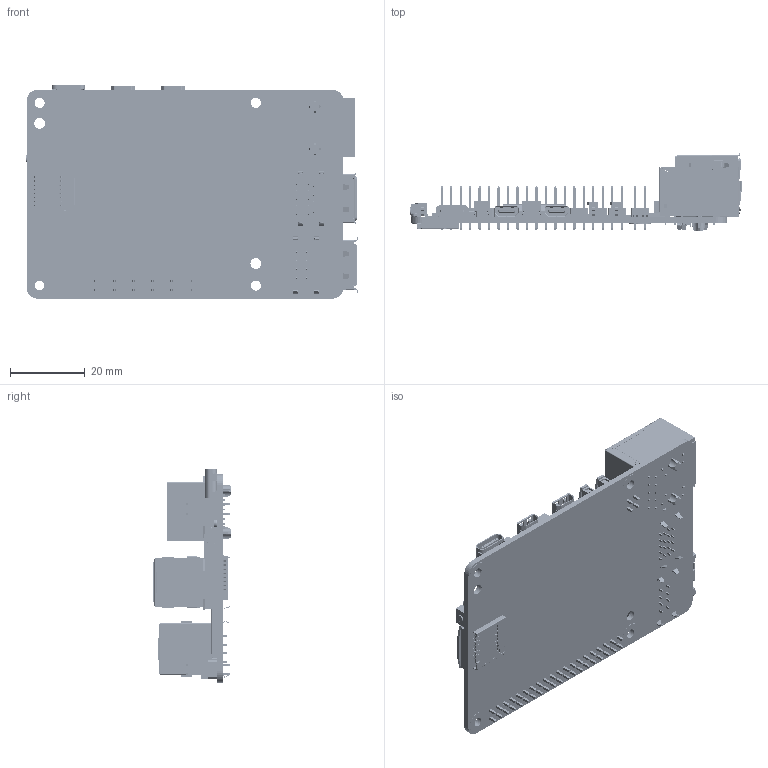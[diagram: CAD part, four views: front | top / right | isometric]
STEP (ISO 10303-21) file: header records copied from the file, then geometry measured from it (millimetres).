
FILE_DESCRIPTION (( 'STEP AP214' ), '1' );
FILE_NAME ('RASPBERRY_PI_5.STEP', '2025-04-03T16:23:53', ( '' ), ( '' ), 'SwSTEP 2.0', 'SolidWorks 2023', '' );
FILE_SCHEMA (( 'AUTOMOTIVE_DESIGN' ));
Length unit declared in the file: millimetre
Products named in the file (27): GIGABIT_ETHERNET_TRANSCEIVER; CARD_SLOT_METAL_PIN; CAMERA_DISPLAY_2; 2xUSB_3.0_PORT; PART3_V1; RP1_CO_CONTROLLER; CONNECT_V1; 2xUSB_2.0_PORT; SLOT_CARD_ASM; STOCK_1; STOCK_2; FEMALE_MICRO_HDMI_CONNECTOR; RASPBERRY_PI_5; PLATE_RASPBERRY_PI_5; 3.0_PIN_HEADER_10; SD_CARD_V1; GIGABIT_ETHERNET_PORT; METAL_PLATE.; 2.0_PIN_HEADER; MxL; CAMERA_DISPLAY_1; BUTTON_MINI; 9FD77_D9WHV; BUTTON_2; BROADCOM_1; STOCK_3; FEMALE_USB_CONNECTOR
Assembly tree (28 placements, depth 3):
  RASPBERRY_PI_5
    PLATE_RASPBERRY_PI_5
    METAL_PLATE.
    GIGABIT_ETHERNET_PORT
    2xUSB_3.0_PORT
    2xUSB_2.0_PORT
    FEMALE_MICRO_HDMI_CONNECTOR  x2
    FEMALE_USB_CONNECTOR
    STOCK_1
    STOCK_2
    STOCK_3
    3.0_PIN_HEADER_10
    2.0_PIN_HEADER
    9FD77_D9WHV
    GIGABIT_ETHERNET_TRANSCEIVER
    RP1_CO_CONTROLLER
    SLOT_CARD_ASM
      CARD_SLOT_METAL_PIN
      SD_CARD_V1
      PART3_V1
    BROADCOM_1
    MxL
    CAMERA_DISPLAY_1
    BUTTON_MINI
    BUTTON_2
    CONNECT_V1
    CAMERA_DISPLAY_2  x2
Bounding box: 89.04 x 20.84 x 57.19 mm (x, y, z)
Volume: 18822.9 mm3; surface area: 29455.2 mm2
Topology: 590 solids, 590 shells, 12564 faces, 32549 edges, 21417 vertices
Faces by surface type: plane 9534, cylinder 1855, bspline 1085, torus 46, cone 36, sphere 8
Entity records: 381894 total; most frequent: CARTESIAN_POINT 116282, ORIENTED_EDGE 56164, DIRECTION 48075, EDGE_CURVE 28082, LINE 22445, VECTOR 22445, VERTEX_POINT 18473, AXIS2_PLACEMENT_3D 12815
